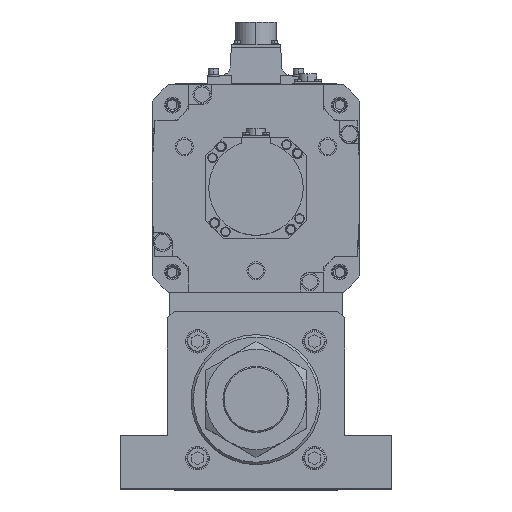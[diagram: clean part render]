
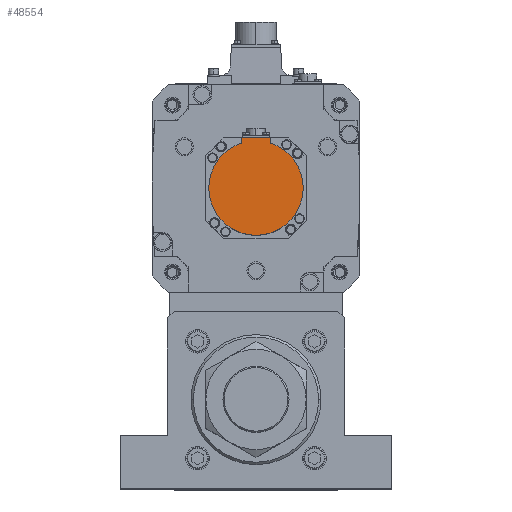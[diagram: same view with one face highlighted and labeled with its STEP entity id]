
A CAD part, top view. The second image highlights one B-rep face of the part: STEP entity #48554.
In plain terms, the highlighted planar face has unit normal (0, 0, 1) as drawn and (0, 0, -1) by its records, which use the part's own axes.
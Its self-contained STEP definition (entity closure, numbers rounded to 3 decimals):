
#2465 = AXIS2_PLACEMENT_3D ( 'NONE', #43476, #18267, #13424 ) ;
#3564 = VERTEX_POINT ( 'NONE', #28556 ) ;
#3734 = CARTESIAN_POINT ( 'NONE',  ( -40., 0., -228. ) ) ;
#5971 = ORIENTED_EDGE ( 'NONE', *, *, #40491, .F. ) ;
#6213 = CARTESIAN_POINT ( 'NONE',  ( 0., 0., -228. ) ) ;
#7307 = DIRECTION ( 'NONE',  ( 1., 0., 0. ) ) ;
#8199 = CARTESIAN_POINT ( 'NONE',  ( 12., -1.249, -228. ) ) ;
#8248 = CARTESIAN_POINT ( 'NONE',  ( 12., -42.5, -228. ) ) ;
#8763 = DIRECTION ( 'NONE',  ( 0., 1., 0. ) ) ;
#11331 = VERTEX_POINT ( 'NONE', #41729 ) ;
#12122 = VECTOR ( 'NONE', #35510, 1000. ) ;
#12368 = CARTESIAN_POINT ( 'NONE',  ( -12., -42.5, -228. ) ) ;
#13424 = DIRECTION ( 'NONE',  ( 1., 0., 0. ) ) ;
#14095 = LINE ( 'NONE', #47834, #12122 ) ;
#14633 = LINE ( 'NONE', #46599, #23314 ) ;
#17067 = ORIENTED_EDGE ( 'NONE', *, *, #34458, .F. ) ;
#17379 = CARTESIAN_POINT ( 'NONE',  ( 12., -38.158, -228. ) ) ;
#18215 = AXIS2_PLACEMENT_3D ( 'NONE', #6213, #36073, #40357 ) ;
#18267 = DIRECTION ( 'NONE',  ( 0., 0., 1. ) ) ;
#20171 = DIRECTION ( 'NONE',  ( 0., 0., 1. ) ) ;
#20305 = EDGE_CURVE ( 'NONE', #54602, #11331, #14095, .T. ) ;
#20815 = VERTEX_POINT ( 'NONE', #17379 ) ;
#20993 = DIRECTION ( 'NONE',  ( -1., 0., 0. ) ) ;
#21842 = DIRECTION ( 'NONE',  ( 0., 0., 1. ) ) ;
#22808 = EDGE_LOOP ( 'NONE', ( #49714, #17067, #44840, #5971, #31342, #53432 ) ) ;
#23314 = VECTOR ( 'NONE', #20993, 1000. ) ;
#24075 = VERTEX_POINT ( 'NONE', #8248 ) ;
#28556 = CARTESIAN_POINT ( 'NONE',  ( 40., 0., -228. ) ) ;
#28584 = VERTEX_POINT ( 'NONE', #3734 ) ;
#30683 = CIRCLE ( 'NONE', #18215, 40. ) ;
#31342 = ORIENTED_EDGE ( 'NONE', *, *, #55107, .F. ) ;
#34458 = EDGE_CURVE ( 'NONE', #28584, #11331, #30683, .T. ) ;
#35510 = DIRECTION ( 'NONE',  ( 0., 1., 0. ) ) ;
#36054 = AXIS2_PLACEMENT_3D ( 'NONE', #43681, #21842, #47071 ) ;
#36073 = DIRECTION ( 'NONE',  ( 0., 0., 1. ) ) ;
#36813 = LINE ( 'NONE', #8199, #50157 ) ;
#38845 = FACE_OUTER_BOUND ( 'NONE', #22808, .T. ) ;
#39002 = PLANE ( 'NONE',  #2465 ) ;
#40357 = DIRECTION ( 'NONE',  ( 1., 0., 0. ) ) ;
#40491 = EDGE_CURVE ( 'NONE', #20815, #3564, #50220, .T. ) ;
#41729 = CARTESIAN_POINT ( 'NONE',  ( -12., -38.158, -228. ) ) ;
#42513 = EDGE_CURVE ( 'NONE', #24075, #54602, #14633, .T. ) ;
#42869 = CIRCLE ( 'NONE', #53548, 40. ) ;
#43476 = CARTESIAN_POINT ( 'NONE',  ( 0., -1.249, -228. ) ) ;
#43681 = CARTESIAN_POINT ( 'NONE',  ( 0., 0., -228. ) ) ;
#44840 = ORIENTED_EDGE ( 'NONE', *, *, #48275, .F. ) ;
#45771 = CARTESIAN_POINT ( 'NONE',  ( 0., 0., -228. ) ) ;
#46599 = CARTESIAN_POINT ( 'NONE',  ( 0., -42.5, -228. ) ) ;
#47071 = DIRECTION ( 'NONE',  ( 1., 0., 0. ) ) ;
#47834 = CARTESIAN_POINT ( 'NONE',  ( -12., -40.329, -228. ) ) ;
#48275 = EDGE_CURVE ( 'NONE', #3564, #28584, #42869, .T. ) ;
#48554 = ADVANCED_FACE ( 'NONE', ( #38845 ), #39002, .F. ) ;
#49714 = ORIENTED_EDGE ( 'NONE', *, *, #20305, .T. ) ;
#50157 = VECTOR ( 'NONE', #8763, 1000. ) ;
#50220 = CIRCLE ( 'NONE', #36054, 40. ) ;
#53432 = ORIENTED_EDGE ( 'NONE', *, *, #42513, .T. ) ;
#53548 = AXIS2_PLACEMENT_3D ( 'NONE', #45771, #20171, #7307 ) ;
#54602 = VERTEX_POINT ( 'NONE', #12368 ) ;
#55107 = EDGE_CURVE ( 'NONE', #24075, #20815, #36813, .T. ) ;
